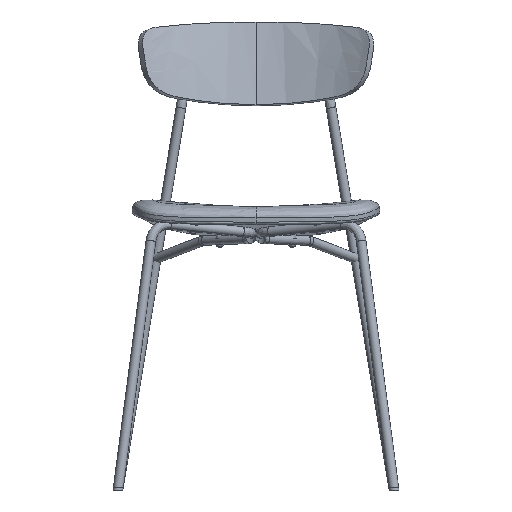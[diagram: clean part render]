
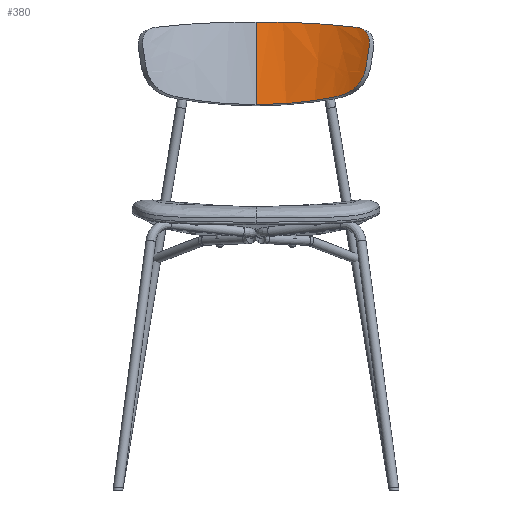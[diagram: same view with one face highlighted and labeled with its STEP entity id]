
A CAD part, front view. The second image highlights one B-rep face of the part: STEP entity #380.
In plain terms, the highlighted free-form (B-spline) face has degree [3, 2] with [5, 3] control points.
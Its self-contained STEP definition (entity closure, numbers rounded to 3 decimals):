
#76=B_SPLINE_CURVE_WITH_KNOTS('',3,(#5040,#5041,#5042,#5043,#5044,#5045,
#5046,#5047,#5048,#5049,#5050,#5051,#5052,#5053,#5054,#5055,#5056,#5057,
#5058,#5059,#5060,#5061,#5062,#5063,#5064,#5065,#5066,#5067,#5068,#5069,
#5070,#5071,#5072,#5073,#5074,#5075),.UNSPECIFIED.,.F.,.F.,(4,2,3,2,2,2,
2,3,3,2,2,2,2,3,2,4),(-142.402,-73.146,-3.882,
-3.638,-3.393,-3.269,-3.139,-2.882,
25.85,26.111,26.242,26.365,26.608,
26.85,115.079,203.244),.UNSPECIFIED.);
#380=ADVANCED_FACE('',(#554),#2386,.T.);
#554=FACE_OUTER_BOUND('',#730,.T.);
#730=EDGE_LOOP('',(#1134,#1135));
#1134=ORIENTED_EDGE('',*,*,#1694,.T.);
#1135=ORIENTED_EDGE('',*,*,#1692,.T.);
#1692=EDGE_CURVE('',#2169,#2168,#2022,.T.);
#1694=EDGE_CURVE('',#2168,#2169,#76,.T.);
#2022=(
BOUNDED_CURVE()
B_SPLINE_CURVE(3,(#5026,#5027,#5028,#5029,#5030,#5031,#5032),
 .UNSPECIFIED.,.F.,.F.)
B_SPLINE_CURVE_WITH_KNOTS((4,3,4),(-140.114,-70.057,
0.),.UNSPECIFIED.)
CURVE()
GEOMETRIC_REPRESENTATION_ITEM()
RATIONAL_B_SPLINE_CURVE((1.,0.965,0.931,0.898,
0.931,0.965,1.))
REPRESENTATION_ITEM('')
);
#2168=VERTEX_POINT('',#5022);
#2169=VERTEX_POINT('',#5023);
#2386=(
BOUNDED_SURFACE()
B_SPLINE_SURFACE(3,2,((#4812,#4813,#4814),(#4815,#4816,#4817),(#4818,#4819,
#4820),(#4821,#4822,#4823),(#4824,#4825,#4826)),.UNSPECIFIED.,.F.,.F.,.F.)
B_SPLINE_SURFACE_WITH_KNOTS((4,1,4),(3,3),(-5.332,70.057,
145.446),(-3.978,234.884),.UNSPECIFIED.)
GEOMETRIC_REPRESENTATION_ITEM()
RATIONAL_B_SPLINE_SURFACE(((1.003,0.898,0.898),
(1.003,0.898,0.898),(1.003,
0.898,0.898),(1.003,0.898,
0.898),(1.003,0.898,0.898)))
REPRESENTATION_ITEM('')
SURFACE()
);
#4812=CARTESIAN_POINT('',(189.507,112.284,645.673));
#4813=CARTESIAN_POINT('',(105.876,175.544,631.06));
#4814=CARTESIAN_POINT('',(0.,175.544,631.06));
#4815=CARTESIAN_POINT('',(189.507,116.431,670.486));
#4816=CARTESIAN_POINT('',(105.876,179.691,655.872));
#4817=CARTESIAN_POINT('',(0.,179.691,655.872));
#4818=CARTESIAN_POINT('',(189.507,126.23,719.763));
#4819=CARTESIAN_POINT('',(105.876,189.49,705.15));
#4820=CARTESIAN_POINT('',(0.,189.49,705.15));
#4821=CARTESIAN_POINT('',(189.507,139.037,768.345));
#4822=CARTESIAN_POINT('',(105.876,202.297,753.732));
#4823=CARTESIAN_POINT('',(0.,202.297,753.732));
#4824=CARTESIAN_POINT('',(189.507,146.193,792.463));
#4825=CARTESIAN_POINT('',(105.876,209.453,777.849));
#4826=CARTESIAN_POINT('',(0.,209.453,777.849));
#5022=CARTESIAN_POINT('',(0.,176.435,636.322));
#5023=CARTESIAN_POINT('',(0.,207.946,772.73));
#5026=CARTESIAN_POINT('',(0.,207.946,772.73));
#5027=CARTESIAN_POINT('',(0.,201.395,750.295));
#5028=CARTESIAN_POINT('',(0.,195.494,727.711));
#5029=CARTESIAN_POINT('',(0.,190.242,704.976));
#5030=CARTESIAN_POINT('',(0.,184.99,682.241));
#5031=CARTESIAN_POINT('',(0.,180.388,659.357));
#5032=CARTESIAN_POINT('',(0.,176.435,636.322));
#5040=CARTESIAN_POINT('',(0.,176.435,636.322));
#5041=CARTESIAN_POINT('',(23.683,176.435,636.322));
#5042=CARTESIAN_POINT('',(46.989,173.877,637.522));
#5043=CARTESIAN_POINT('',(91.817,164.195,642.071));
#5044=CARTESIAN_POINT('',(113.343,157.074,645.42));
#5045=CARTESIAN_POINT('',(133.581,147.995,649.708));
#5046=CARTESIAN_POINT('',(139.282,145.437,650.916));
#5047=CARTESIAN_POINT('',(144.911,142.789,652.686));
#5048=CARTESIAN_POINT('',(155.532,137.721,657.832));
#5049=CARTESIAN_POINT('',(160.555,135.284,661.218));
#5050=CARTESIAN_POINT('',(167.322,132.211,668.004));
#5051=CARTESIAN_POINT('',(169.428,131.298,670.554));
#5052=CARTESIAN_POINT('',(173.213,129.799,676.071));
#5053=CARTESIAN_POINT('',(174.902,129.212,679.082));
#5054=CARTESIAN_POINT('',(179.287,128.011,688.593));
#5055=CARTESIAN_POINT('',(181.349,127.933,695.62));
#5056=CARTESIAN_POINT('',(182.712,128.571,703.251));
#5057=CARTESIAN_POINT('',(184.39,129.358,712.648));
#5058=CARTESIAN_POINT('',(185.724,130.484,722.038));
#5059=CARTESIAN_POINT('',(186.737,131.982,731.498));
#5060=CARTESIAN_POINT('',(187.241,132.728,736.204));
#5061=CARTESIAN_POINT('',(187.241,133.861,740.762));
#5062=CARTESIAN_POINT('',(186.132,136.313,747.009));
#5063=CARTESIAN_POINT('',(185.574,137.26,748.998));
#5064=CARTESIAN_POINT('',(184.062,139.36,752.598));
#5065=CARTESIAN_POINT('',(183.105,140.527,754.257));
#5066=CARTESIAN_POINT('',(179.822,144.116,758.478));
#5067=CARTESIAN_POINT('',(177.15,146.589,760.356));
#5068=CARTESIAN_POINT('',(171.401,151.357,762.955));
#5069=CARTESIAN_POINT('',(168.288,153.68,763.679));
#5070=CARTESIAN_POINT('',(165.154,155.837,764.055));
#5071=CARTESIAN_POINT('',(141.765,171.93,766.867));
#5072=CARTESIAN_POINT('',(115.863,184.973,769.034));
#5073=CARTESIAN_POINT('',(60.273,202.984,771.963));
#5074=CARTESIAN_POINT('',(30.572,207.946,772.73));
#5075=CARTESIAN_POINT('',(0.,207.946,772.73));
